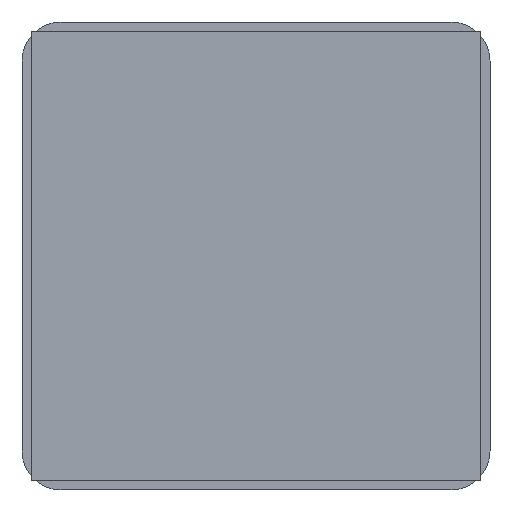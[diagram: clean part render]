
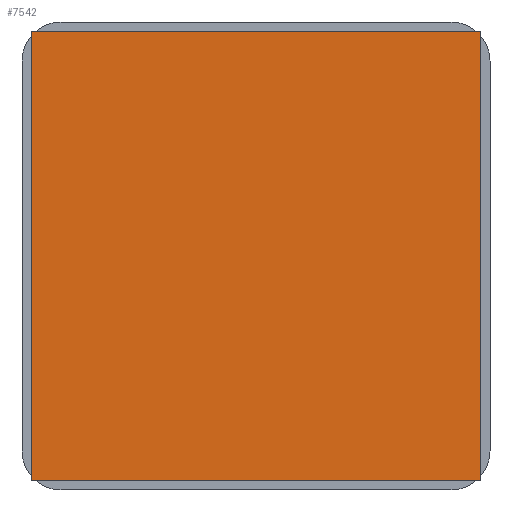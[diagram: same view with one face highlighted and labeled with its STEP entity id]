
A CAD part, front view. The second image highlights one B-rep face of the part: STEP entity #7542.
In plain terms, the highlighted planar face has unit normal (0, -1, 0).
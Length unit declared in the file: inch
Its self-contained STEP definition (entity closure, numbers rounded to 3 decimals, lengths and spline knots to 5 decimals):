
#539 = PLANE ( 'NONE',  #8019 ) ;
#637 = FACE_OUTER_BOUND ( 'NONE', #2003, .T. ) ;
#1031 = CARTESIAN_POINT ( 'NONE',  ( -0.74803, -0.005, -0.74803 ) ) ;
#1079 = CARTESIAN_POINT ( 'NONE',  ( -0.74803, -0.005, 0.74803 ) ) ;
#1180 = EDGE_CURVE ( 'NONE', #7843, #2414, #6179, .T. ) ;
#1273 = CARTESIAN_POINT ( 'NONE',  ( 0.74803, -0.005, -0.74803 ) ) ;
#1304 = DIRECTION ( 'NONE',  ( 0., 0., 1. ) ) ;
#1348 = VERTEX_POINT ( 'NONE', #1273 ) ;
#1567 = DIRECTION ( 'NONE',  ( 0., 0., -1. ) ) ;
#1818 = DIRECTION ( 'NONE',  ( 1., 0., 0. ) ) ;
#1835 = EDGE_CURVE ( 'NONE', #2414, #5787, #6020, .T. ) ;
#1873 = VECTOR ( 'NONE', #1818, 39.37008 ) ;
#2003 = EDGE_LOOP ( 'NONE', ( #5265, #8010, #7308, #7660 ) ) ;
#2324 = LINE ( 'NONE', #5777, #3622 ) ;
#2414 = VERTEX_POINT ( 'NONE', #2925 ) ;
#2806 = CARTESIAN_POINT ( 'NONE',  ( -0.74803, -0.005, 0.74803 ) ) ;
#2925 = CARTESIAN_POINT ( 'NONE',  ( -0.74803, -0.005, 0.74803 ) ) ;
#3622 = VECTOR ( 'NONE', #8591, 39.37008 ) ;
#4733 = CARTESIAN_POINT ( 'NONE',  ( -0.74803, -0.005, -0.74803 ) ) ;
#4956 = VECTOR ( 'NONE', #5374, 39.37008 ) ;
#4988 = VECTOR ( 'NONE', #1567, 39.37008 ) ;
#5218 = CARTESIAN_POINT ( 'NONE',  ( 0.74803, -0.005, -0.74803 ) ) ;
#5265 = ORIENTED_EDGE ( 'NONE', *, *, #1180, .F. ) ;
#5374 = DIRECTION ( 'NONE',  ( 0., 0., 1. ) ) ;
#5526 = DIRECTION ( 'NONE',  ( 0., 1., 0. ) ) ;
#5777 = CARTESIAN_POINT ( 'NONE',  ( -0.74803, -0.005, -0.74803 ) ) ;
#5787 = VERTEX_POINT ( 'NONE', #8692 ) ;
#6020 = LINE ( 'NONE', #1079, #1873 ) ;
#6179 = LINE ( 'NONE', #4733, #4956 ) ;
#6380 = EDGE_CURVE ( 'NONE', #5787, #1348, #6503, .T. ) ;
#6503 = LINE ( 'NONE', #5218, #4988 ) ;
#7308 = ORIENTED_EDGE ( 'NONE', *, *, #6380, .F. ) ;
#7542 = ADVANCED_FACE ( 'NONE', ( #637 ), #539, .F. ) ;
#7660 = ORIENTED_EDGE ( 'NONE', *, *, #1835, .F. ) ;
#7825 = EDGE_CURVE ( 'NONE', #1348, #7843, #2324, .T. ) ;
#7843 = VERTEX_POINT ( 'NONE', #1031 ) ;
#8010 = ORIENTED_EDGE ( 'NONE', *, *, #7825, .F. ) ;
#8019 = AXIS2_PLACEMENT_3D ( 'NONE', #2806, #5526, #1304 ) ;
#8591 = DIRECTION ( 'NONE',  ( -1., 0., 0. ) ) ;
#8692 = CARTESIAN_POINT ( 'NONE',  ( 0.74803, -0.005, 0.74803 ) ) ;
